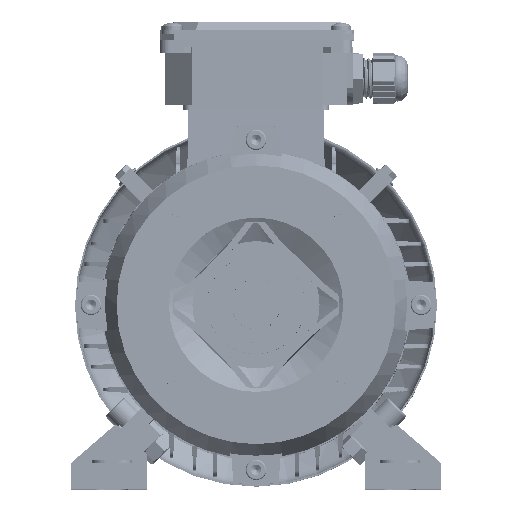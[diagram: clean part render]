
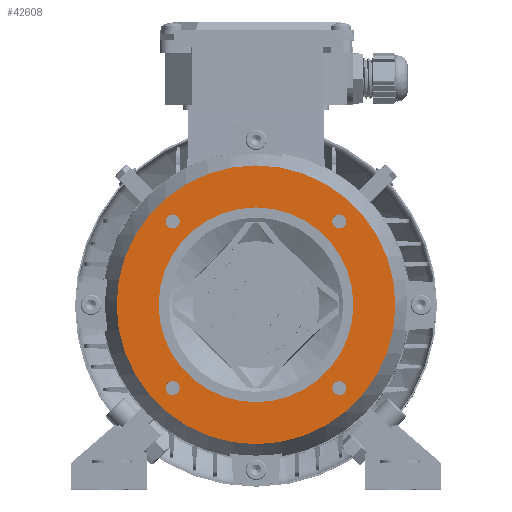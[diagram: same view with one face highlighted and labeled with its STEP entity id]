
A CAD part, top view. The second image highlights one B-rep face of the part: STEP entity #42608.
In plain terms, the highlighted planar face has unit normal (0, 0, 1) as drawn and (0, -1, 0) by its records, which use the part's own axes.
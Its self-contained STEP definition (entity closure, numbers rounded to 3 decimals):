
#1125 = AXIS2_PLACEMENT_3D ( 'NONE', #1600, #79522, #12762 ) ;
#1600 = CARTESIAN_POINT ( 'NONE',  ( 40.659, -10., -40.659 ) ) ;
#5318 = CARTESIAN_POINT ( 'NONE',  ( 0., -10., -68. ) ) ;
#8263 = AXIS2_PLACEMENT_3D ( 'NONE', #47771, #125672, #58914 ) ;
#8367 = CARTESIAN_POINT ( 'NONE',  ( -40.659, -10., -37.259 ) ) ;
#8891 = CARTESIAN_POINT ( 'NONE',  ( 0., -10., 0. ) ) ;
#9926 = DIRECTION ( 'NONE',  ( 0., -1., 0. ) ) ;
#10012 = CIRCLE ( 'NONE', #25170, 3.4 ) ;
#12762 = DIRECTION ( 'NONE',  ( 0., 0., -1. ) ) ;
#13559 = FACE_BOUND ( 'NONE', #64833, .T. ) ;
#15829 = CARTESIAN_POINT ( 'NONE',  ( 40.659, -10., 40.659 ) ) ;
#16439 = CIRCLE ( 'NONE', #8263, 68. ) ;
#16589 = CIRCLE ( 'NONE', #61827, 68. ) ;
#18774 = DIRECTION ( 'NONE',  ( 0., -1., 0. ) ) ;
#19131 = EDGE_CURVE ( 'NONE', #74117, #113999, #16439, .T. ) ;
#19188 = CIRCLE ( 'NONE', #70893, 3.4 ) ;
#20065 = DIRECTION ( 'NONE',  ( 0., 0., -1. ) ) ;
#20624 = CIRCLE ( 'NONE', #76416, 47.5 ) ;
#23795 = CIRCLE ( 'NONE', #46808, 3.4 ) ;
#25170 = AXIS2_PLACEMENT_3D ( 'NONE', #125254, #58509, #136475 ) ;
#25578 = ORIENTED_EDGE ( 'NONE', *, *, #19131, .T. ) ;
#26215 = AXIS2_PLACEMENT_3D ( 'NONE', #8891, #86867, #20065 ) ;
#26358 = EDGE_LOOP ( 'NONE', ( #134642, #117882 ) ) ;
#26930 = VERTEX_POINT ( 'NONE', #140748 ) ;
#27055 = DIRECTION ( 'NONE',  ( 0., 0., -1. ) ) ;
#31705 = VERTEX_POINT ( 'NONE', #8367 ) ;
#31842 = DIRECTION ( 'NONE',  ( 0., -1., 0. ) ) ;
#35472 = EDGE_LOOP ( 'NONE', ( #134392, #25578 ) ) ;
#37003 = CARTESIAN_POINT ( 'NONE',  ( 0., -10., 0. ) ) ;
#38099 = EDGE_LOOP ( 'NONE', ( #135271, #116305 ) ) ;
#40983 = EDGE_CURVE ( 'NONE', #56398, #110484, #62717, .T. ) ;
#41891 = EDGE_LOOP ( 'NONE', ( #109407, #68345 ) ) ;
#42608 = ADVANCED_FACE ( 'NONE', ( #43188, #135632, #13559, #128566, #99002, #69388 ), #65497, .T. ) ;
#43188 = FACE_BOUND ( 'NONE', #67374, .T. ) ;
#43468 = DIRECTION ( 'NONE',  ( 0., -1., 0. ) ) ;
#44582 = EDGE_CURVE ( 'NONE', #77706, #31705, #23795, .T. ) ;
#45587 = CARTESIAN_POINT ( 'NONE',  ( -40.659, -10., 40.659 ) ) ;
#46718 = CARTESIAN_POINT ( 'NONE',  ( 40.659, -10., -40.659 ) ) ;
#46808 = AXIS2_PLACEMENT_3D ( 'NONE', #85563, #18774, #96817 ) ;
#47771 = CARTESIAN_POINT ( 'NONE',  ( 0., -10., 0. ) ) ;
#48255 = DIRECTION ( 'NONE',  ( 0., 0., -1. ) ) ;
#49135 = CARTESIAN_POINT ( 'NONE',  ( -40.659, -10., 44.059 ) ) ;
#55196 = CARTESIAN_POINT ( 'NONE',  ( 40.659, -10., 40.659 ) ) ;
#55567 = AXIS2_PLACEMENT_3D ( 'NONE', #45587, #123519, #56763 ) ;
#56398 = VERTEX_POINT ( 'NONE', #60665 ) ;
#56763 = DIRECTION ( 'NONE',  ( 0., 0., -1. ) ) ;
#57856 = DIRECTION ( 'NONE',  ( 0., 0., -1. ) ) ;
#58509 = DIRECTION ( 'NONE',  ( 0., -1., 0. ) ) ;
#58914 = DIRECTION ( 'NONE',  ( 0., 0., -1. ) ) ;
#59160 = VERTEX_POINT ( 'NONE', #64330 ) ;
#60665 = CARTESIAN_POINT ( 'NONE',  ( 40.659, -10., 44.059 ) ) ;
#61827 = AXIS2_PLACEMENT_3D ( 'NONE', #110182, #43468, #121395 ) ;
#62717 = CIRCLE ( 'NONE', #135152, 3.4 ) ;
#64330 = CARTESIAN_POINT ( 'NONE',  ( 40.659, -10., -37.259 ) ) ;
#64833 = EDGE_LOOP ( 'NONE', ( #70126, #109993 ) ) ;
#65497 = PLANE ( 'NONE',  #81129 ) ;
#66445 = DIRECTION ( 'NONE',  ( 0., 0., -1. ) ) ;
#67374 = EDGE_LOOP ( 'NONE', ( #90777, #122931 ) ) ;
#68345 = ORIENTED_EDGE ( 'NONE', *, *, #77816, .F. ) ;
#69388 = FACE_BOUND ( 'NONE', #26358, .T. ) ;
#70126 = ORIENTED_EDGE ( 'NONE', *, *, #44582, .F. ) ;
#70893 = AXIS2_PLACEMENT_3D ( 'NONE', #98633, #31842, #109784 ) ;
#74117 = VERTEX_POINT ( 'NONE', #5318 ) ;
#76416 = AXIS2_PLACEMENT_3D ( 'NONE', #37003, #114955, #48255 ) ;
#77617 = EDGE_CURVE ( 'NONE', #109943, #92760, #86321, .T. ) ;
#77706 = VERTEX_POINT ( 'NONE', #132627 ) ;
#77772 = VERTEX_POINT ( 'NONE', #89782 ) ;
#77816 = EDGE_CURVE ( 'NONE', #59160, #26930, #95018, .T. ) ;
#79522 = DIRECTION ( 'NONE',  ( 0., -1., 0. ) ) ;
#81129 = AXIS2_PLACEMENT_3D ( 'NONE', #143415, #9926, #87881 ) ;
#81774 = CIRCLE ( 'NONE', #138279, 3.4 ) ;
#85563 = CARTESIAN_POINT ( 'NONE',  ( -40.659, -10., -40.659 ) ) ;
#86321 = CIRCLE ( 'NONE', #26215, 47.5 ) ;
#86867 = DIRECTION ( 'NONE',  ( 0., -1., 0. ) ) ;
#87881 = DIRECTION ( 'NONE',  ( 0., 0., -1. ) ) ;
#88353 = EDGE_CURVE ( 'NONE', #26930, #59160, #81774, .T. ) ;
#89782 = CARTESIAN_POINT ( 'NONE',  ( -40.659, -10., 37.259 ) ) ;
#90777 = ORIENTED_EDGE ( 'NONE', *, *, #97003, .F. ) ;
#92760 = VERTEX_POINT ( 'NONE', #118728 ) ;
#93839 = DIRECTION ( 'NONE',  ( 0., -1., 0. ) ) ;
#95018 = CIRCLE ( 'NONE', #1125, 3.4 ) ;
#96817 = DIRECTION ( 'NONE',  ( 0., 0., -1. ) ) ;
#97003 = EDGE_CURVE ( 'NONE', #77772, #112163, #10012, .T. ) ;
#97706 = CIRCLE ( 'NONE', #123126, 3.4 ) ;
#98633 = CARTESIAN_POINT ( 'NONE',  ( -40.659, -10., -40.659 ) ) ;
#99002 = FACE_OUTER_BOUND ( 'NONE', #35472, .T. ) ;
#107464 = CIRCLE ( 'NONE', #55567, 3.4 ) ;
#109407 = ORIENTED_EDGE ( 'NONE', *, *, #88353, .F. ) ;
#109784 = DIRECTION ( 'NONE',  ( 0., 0., -1. ) ) ;
#109943 = VERTEX_POINT ( 'NONE', #113108 ) ;
#109993 = ORIENTED_EDGE ( 'NONE', *, *, #118254, .F. ) ;
#110182 = CARTESIAN_POINT ( 'NONE',  ( 0., -10., 0. ) ) ;
#110484 = VERTEX_POINT ( 'NONE', #133896 ) ;
#112163 = VERTEX_POINT ( 'NONE', #49135 ) ;
#113108 = CARTESIAN_POINT ( 'NONE',  ( 0., -10., 47.5 ) ) ;
#113999 = VERTEX_POINT ( 'NONE', #133811 ) ;
#114955 = DIRECTION ( 'NONE',  ( 0., -1., 0. ) ) ;
#116305 = ORIENTED_EDGE ( 'NONE', *, *, #40983, .F. ) ;
#117882 = ORIENTED_EDGE ( 'NONE', *, *, #77617, .F. ) ;
#118254 = EDGE_CURVE ( 'NONE', #31705, #77706, #19188, .T. ) ;
#118334 = EDGE_CURVE ( 'NONE', #110484, #56398, #97706, .T. ) ;
#118728 = CARTESIAN_POINT ( 'NONE',  ( 0., -10., -47.5 ) ) ;
#121395 = DIRECTION ( 'NONE',  ( 0., 0., -1. ) ) ;
#122665 = EDGE_CURVE ( 'NONE', #113999, #74117, #16589, .T. ) ;
#122931 = ORIENTED_EDGE ( 'NONE', *, *, #136427, .F. ) ;
#123126 = AXIS2_PLACEMENT_3D ( 'NONE', #55196, #133177, #66445 ) ;
#123519 = DIRECTION ( 'NONE',  ( 0., -1., 0. ) ) ;
#124626 = DIRECTION ( 'NONE',  ( 0., -1., 0. ) ) ;
#125254 = CARTESIAN_POINT ( 'NONE',  ( -40.659, -10., 40.659 ) ) ;
#125672 = DIRECTION ( 'NONE',  ( 0., -1., 0. ) ) ;
#127626 = EDGE_CURVE ( 'NONE', #92760, #109943, #20624, .T. ) ;
#128566 = FACE_BOUND ( 'NONE', #41891, .T. ) ;
#132627 = CARTESIAN_POINT ( 'NONE',  ( -40.659, -10., -44.059 ) ) ;
#133177 = DIRECTION ( 'NONE',  ( 0., -1., 0. ) ) ;
#133811 = CARTESIAN_POINT ( 'NONE',  ( 0., -10., 68. ) ) ;
#133896 = CARTESIAN_POINT ( 'NONE',  ( 40.659, -10., 37.259 ) ) ;
#134392 = ORIENTED_EDGE ( 'NONE', *, *, #122665, .T. ) ;
#134642 = ORIENTED_EDGE ( 'NONE', *, *, #127626, .F. ) ;
#135152 = AXIS2_PLACEMENT_3D ( 'NONE', #15829, #93839, #27055 ) ;
#135271 = ORIENTED_EDGE ( 'NONE', *, *, #118334, .F. ) ;
#135632 = FACE_BOUND ( 'NONE', #38099, .T. ) ;
#136427 = EDGE_CURVE ( 'NONE', #112163, #77772, #107464, .T. ) ;
#136475 = DIRECTION ( 'NONE',  ( 0., 0., -1. ) ) ;
#138279 = AXIS2_PLACEMENT_3D ( 'NONE', #46718, #124626, #57856 ) ;
#140748 = CARTESIAN_POINT ( 'NONE',  ( 40.659, -10., -44.059 ) ) ;
#143415 = CARTESIAN_POINT ( 'NONE',  ( 47.5, -10., 0. ) ) ;
